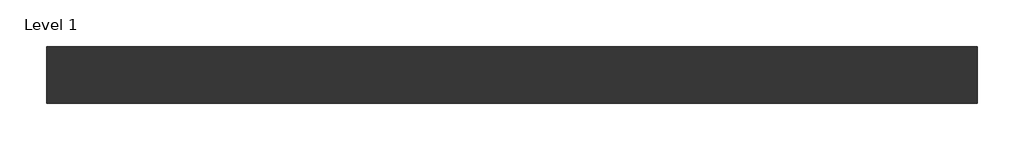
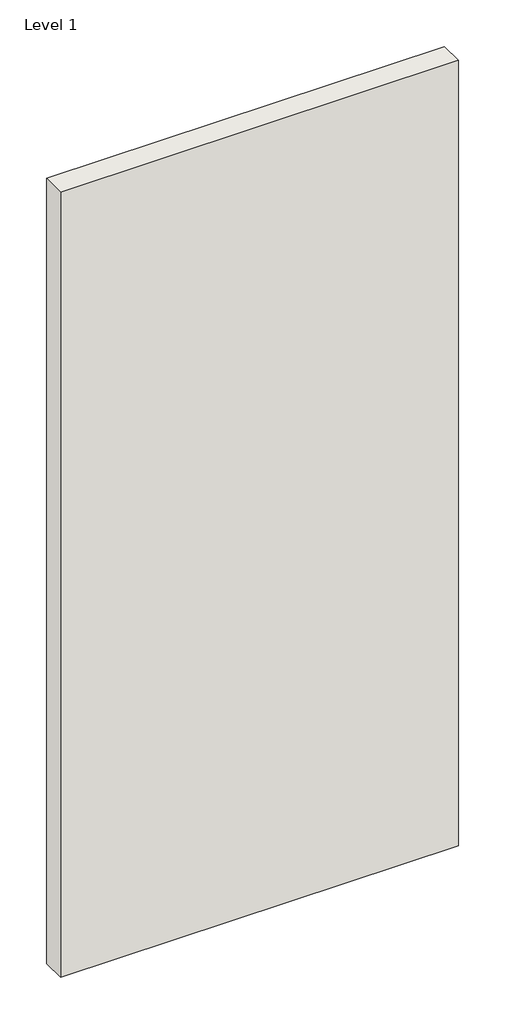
# One storey: 1 wall.
"""IFC4 building model written with IfcOpenShell, lengths in millimetres."""

from ifc_helpers import new_model, si_unit, origin, origin_with_axes, place, context, project, spatial, polyline, outline, extrude, element, save

model = new_model("IFC4")

# Units and contexts
model_context = context("Model", 3, world=origin())
ifc_project = project(units=[si_unit("LENGTHUNIT", "METRE", prefix="MILLI")], contexts=[model_context])

# Site, building, storey
site = spatial("IfcSite", under=ifc_project)
building = spatial("IfcBuilding", under=site)
storey = spatial("IfcBuildingStorey", under=building, Name="Level 1", Elevation=0.0)

# Wall
placement = place(None, origin())
element("IfcWall", 1, ObjectType="Trasdosado Placo® 73(48) 2xBA13 + 48LM c/400", at=placement, inside=storey, context=model_context, shape_type="SweptSolid", body=[
    extrude(outline(polyline([(-27296.4711674, -83211.8970389), (-28496.4711674, -83211.8970389), (-28496.4711674, -83138.8970389), (-27296.4711674, -83138.8970389), (-27296.4711674, -83211.8970389)])), origin_with_axes(), (0.0, 0.0, 1.0), 2500.0),
])

save(model, "model.ifc")
